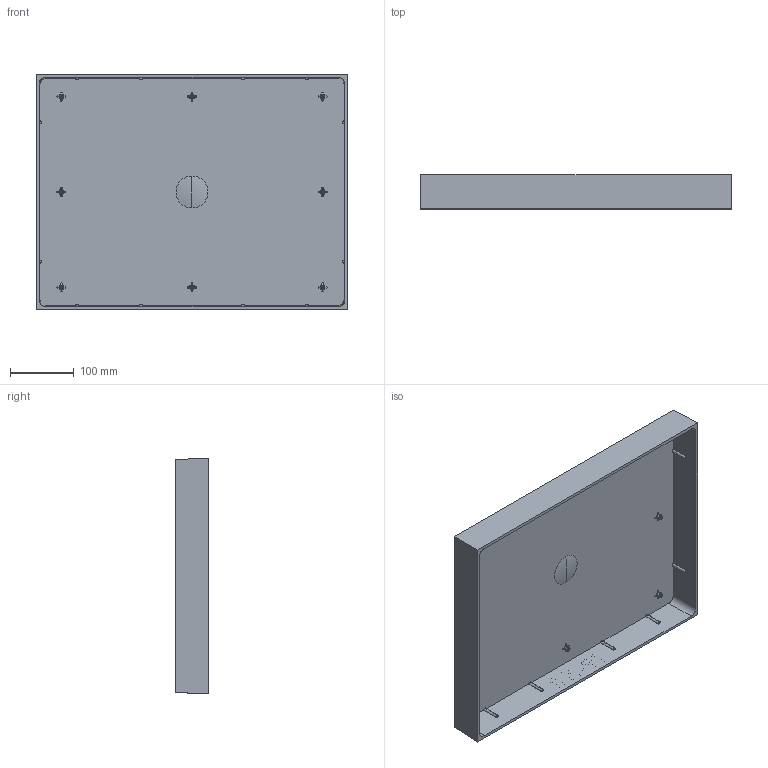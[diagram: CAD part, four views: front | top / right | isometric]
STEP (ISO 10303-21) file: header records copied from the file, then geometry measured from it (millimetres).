
FILE_DESCRIPTION (( 'STEP AP203' ), '1' );
FILE_NAME ('lid inside type 6040.STEP', '2023-03-13T11:19:01', ( '' ), ( '' ), 'SwSTEP 2.0', 'SolidWorks 2022', '' );
FILE_SCHEMA (( 'CONFIG_CONTROL_DESIGN' ));
Length unit declared in the file: millimetre
Products named in the file (1): lid inside type 6040
Bounding box: 488 x 53 x 368 mm (x, y, z)
Volume: 1226739.5 mm3; surface area: 529501.6 mm2
Topology: 1 solids, 1 shells, 916 faces, 2174 edges, 1219 vertices
Faces by surface type: bspline 301, plane 205, cylinder 164, torus 114, cone 68, sphere 64
Entity records: 32119 total; most frequent: CARTESIAN_POINT 13609, ORIENTED_EDGE 4216, DIRECTION 3550, EDGE_CURVE 2108, AXIS2_PLACEMENT_3D 1460, VERTEX_POINT 1219, EDGE_LOOP 941, ADVANCED_FACE 916
